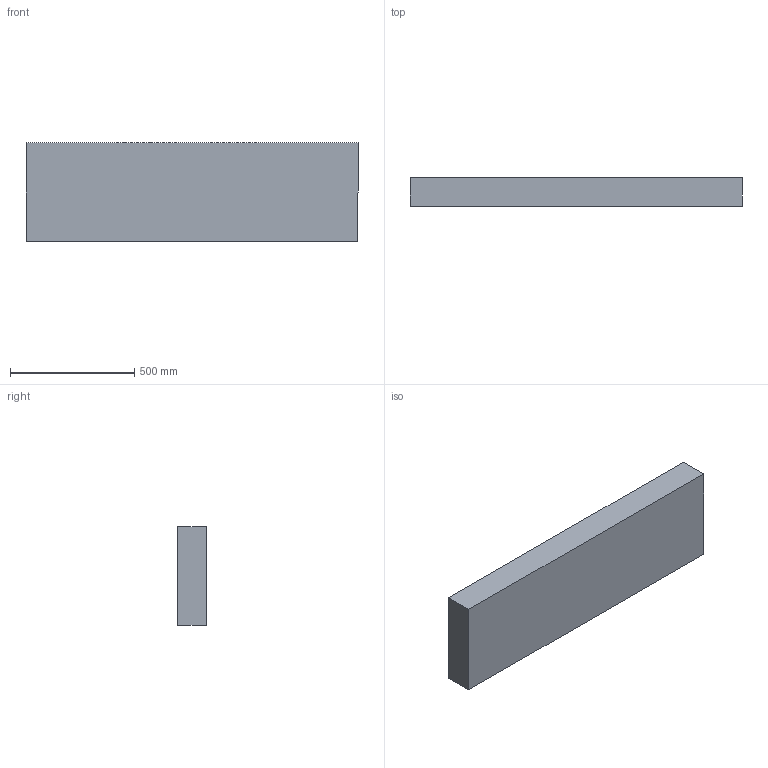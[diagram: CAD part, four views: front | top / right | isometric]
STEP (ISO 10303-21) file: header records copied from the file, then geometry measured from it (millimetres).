
FILE_DESCRIPTION (( 'STEP AP214' ), '1' );
FILE_NAME ('1750E - 932 BOTTOM PID 4-10-2025.STEP', '2025-05-22T05:52:02', ( '' ), ( '' ), 'SwSTEP 2.0', 'SolidWorks 2021', '' );
FILE_SCHEMA (( 'AUTOMOTIVE_DESIGN' ));
Length unit declared in the file: inch
Products named in the file (1): 1750E - 932 BOTTOM PID 4-10-2025
Bounding box: 1335.53 x 115.32 x 395.73 mm (x, y, z)
Volume: 22052657.2 mm3; surface area: 1717363.8 mm2
Topology: 1 solids, 1 shells, 407 faces, 1002 edges, 611 vertices
Faces by surface type: cylinder 131, torus 93, bspline 85, plane 52, sphere 36, cone 10
Entity records: 15074 total; most frequent: CARTESIAN_POINT 6173, ORIENTED_EDGE 1988, DIRECTION 1747, EDGE_CURVE 994, AXIS2_PLACEMENT_3D 724, VERTEX_POINT 611, EDGE_LOOP 429, ADVANCED_FACE 407
